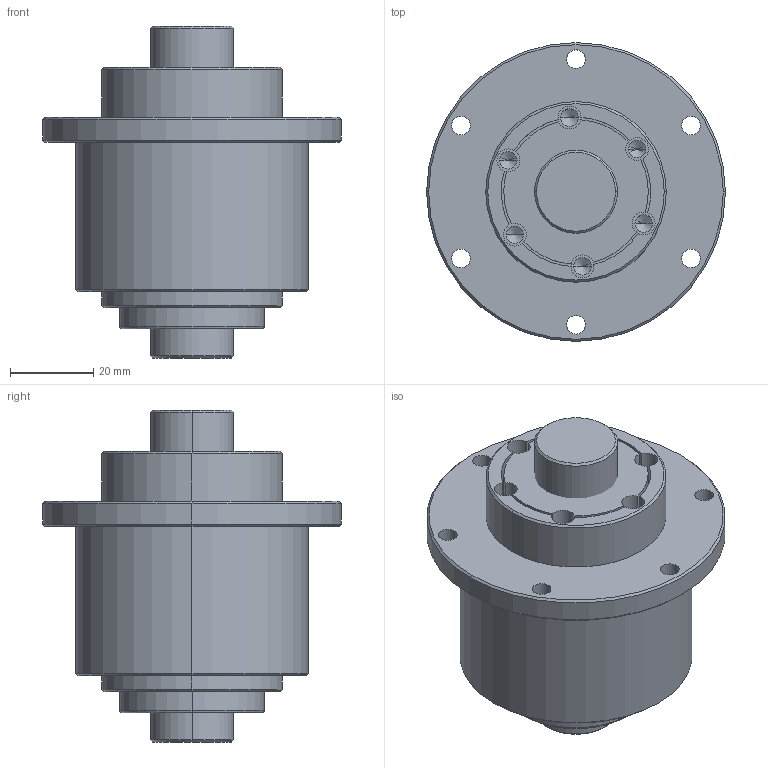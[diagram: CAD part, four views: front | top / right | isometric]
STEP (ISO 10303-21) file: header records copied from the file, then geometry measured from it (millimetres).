
FILE_DESCRIPTION (( 'STEP AP203' ), '1' );
FILE_NAME ('RLBF20.STEP', '2014-11-13T09:04:01', ( '' ), ( '' ), 'SwSTEP 2.0', 'SolidWorks 2014', '' );
FILE_SCHEMA (( 'CONFIG_CONTROL_DESIGN' ));
Length unit declared in the file: millimetre
Products named in the file (1): RLBF20
Bounding box: 72 x 72 x 80 mm (x, y, z)
Volume: 146593.5 mm3; surface area: 31568.3 mm2
Topology: 3 solids, 3 shells, 108 faces, 263 edges, 160 vertices
Faces by surface type: cylinder 69, cone 26, plane 11, torus 2
Entity records: 3236 total; most frequent: DIRECTION 625, CARTESIAN_POINT 520, ORIENTED_EDGE 502, AXIS2_PLACEMENT_3D 265, EDGE_CURVE 251, VERTEX_POINT 160, CIRCLE 156, EDGE_LOOP 133
